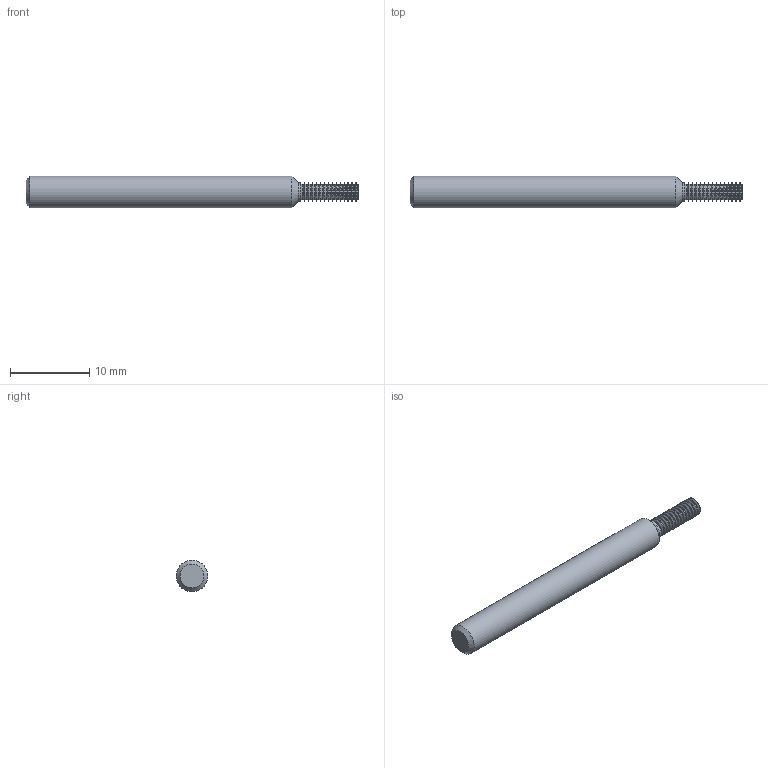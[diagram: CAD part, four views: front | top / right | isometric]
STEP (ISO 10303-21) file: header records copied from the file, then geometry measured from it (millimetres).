
FILE_DESCRIPTION(/* description */ (''),/* implementation_level */ '2;1');
FILE_NAME(/* name */ '00031562-TDM',/* time_stamp */ '2024-02-09T08:38:06+01:00',/* author */ (''),/* organization */ (''),/* preprocessor_version */ 'ST-DEVELOPER v16.5',/* originating_system */ 'HiCAD 2017 2201.0 Build 268',/* authorisation */ '');
FILE_SCHEMA (('AUTOMOTIVE_DESIGN { 1 0 10303 214 1 1 1 1 }'));
Length unit declared in the file: millimetre
Products named in the file (3): Root; ROTATIONSTEIL_0
Assembly tree (2 placements, depth 3):
  Root
    ROTATIONSTEIL_0
      ROTATIONSTEIL_0
Bounding box: 42 x 4 x 4 mm (x, y, z)
Volume: 453.6 mm3; surface area: 548.6 mm2
Topology: 2 solids, 2 shells, 95 faces, 186 edges, 95 vertices
Faces by surface type: torus 43, cone 31, cylinder 17, plane 4
Full cylindrical faces by diameter (mm): 1.858 x15, 2.4 x1, 4 x1
Entity records: 2874 total; most frequent: DIRECTION 384, CARTESIAN_POINT 285, AXIS2_PLACEMENT_3D 192, PRESENTATION_STYLE_ASSIGNMENT 188, COLOUR_RGB 188, DRAUGHTING_PRE_DEFINED_CURVE_FONT 186, CURVE_STYLE 186, OVER_RIDING_STYLED_ITEM 186
